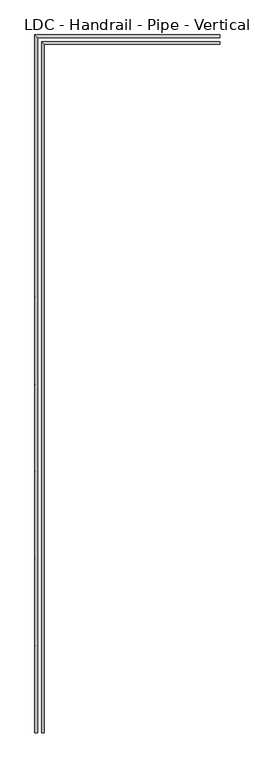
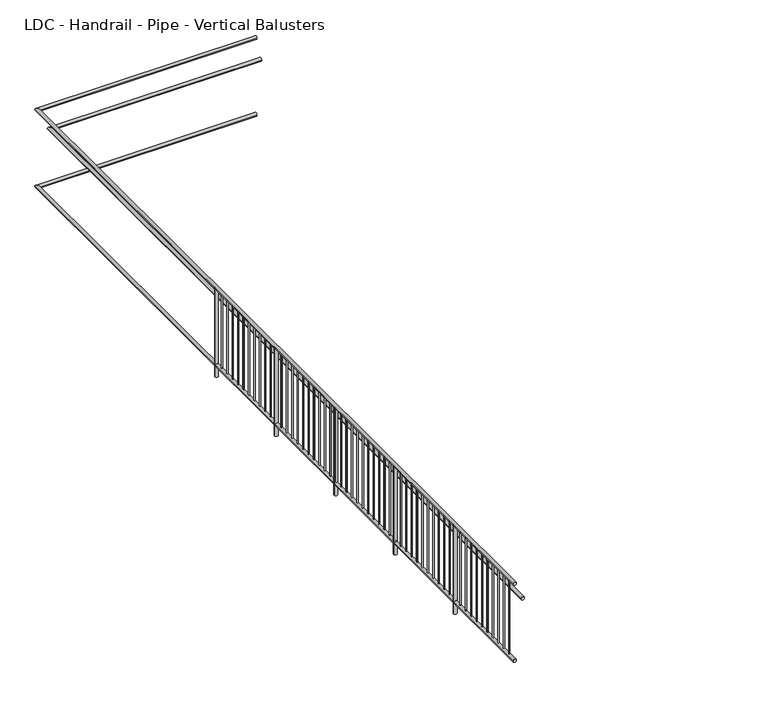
"""IFC4 building model written with IfcOpenShell, lengths in millimetres: railing geometry, LDC - Handrail - Pipe - Vertical Balusters."""

from ifc_helpers import new_model, si_unit, point, frame, frame_2d, origin, place, context, project, spatial, circle_curve, ellipse_curve, trimmed, segment, composite_curve, outline, extrude, source, transform, mapped, element, save
from ifc_brep_helpers import plane_surface, cylinder_surface, advanced_brep


def ldc_handrail_pipe_vertical_balusters_79d0837e(model_context):
    return source(origin(), model_context, "Body", "SolidModel", [
        advanced_brep(
        [(-2934.7516552, 9586.277236, 4107.75), (-2934.7516552, 9624.377236, 4107.75), (-5360.4516552, 9586.277236, 4107.75), (-5398.5516552, 9624.377236, 4107.75), (-5360.4516552, 353.377236, 4107.75), (-5398.5516552, 353.377236, 4107.75)],
        [
            (0, 1, circle_curve(frame((-2934.7516552, 9605.327236, 4107.75), z_axis=(1.0, 0.0, 0.0), x_axis=(0.0, 1.0, 0.0)), 19.05)),
            (1, 0, circle_curve(frame((-2934.7516552, 9605.327236, 4107.75), z_axis=(1.0, 0.0, 0.0), x_axis=(0.0, 1.0, 0.0)), 19.05)),
            (0, 2),
            (2, 3, ellipse_curve(frame((-5379.5016552, 9605.327236, 4107.75), z_axis=(0.7071067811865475, 0.7071067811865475, 0.0), x_axis=(0.7071067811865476, -0.7071067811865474, 0.0)), 26.9407684, 19.05)),
            (3, 1),
            (3, 2, ellipse_curve(frame((-5379.5016552, 9605.327236, 4107.75), z_axis=(0.7071067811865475, 0.7071067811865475, 0.0), x_axis=(0.7071067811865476, -0.7071067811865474, 0.0)), 26.9407684, 19.05)),
            (4, 5, circle_curve(frame((-5379.5016552, 353.377236, 4107.75), z_axis=(0.0, -1.0, 0.0), x_axis=(-1.0, 0.0, 0.0)), 19.05)),
            (5, 4, circle_curve(frame((-5379.5016552, 353.377236, 4107.75), z_axis=(0.0, -1.0, 0.0), x_axis=(-1.0, 0.0, 0.0)), 19.05)),
            (2, 4),
            (5, 3),
        ],
        [
            plane_surface(frame((-2934.7516552, 9605.327236, 4126.8), z_axis=(1.0, 0.0, 0.0), x_axis=(0.0, -1.0, 0.0))),
            cylinder_surface(frame((-2934.7516552, 9605.327236, 4107.75), z_axis=(1.0, 0.0, 0.0), x_axis=(0.0, 1.0, 0.0)), 19.05),
            plane_surface(frame((-5379.5016552, 353.377236, 4126.8), z_axis=(0.0, -1.0, 0.0), x_axis=(0.0, 0.0, -1.0))),
            cylinder_surface(frame((-5379.5016552, 9605.327236, 4107.75), z_axis=(0.0, 1.0, 0.0), x_axis=(-1.0, 0.0, 0.0)), 19.05),
        ],
        [
            (0, [[1, 2]]),
            (1, [[-1, 3, 4, 5]]),
            (1, [[-2, -5, 6, -3]]),
            (2, [[7, 8]]),
            (3, [[-4, 9, -8, 10]]),
            (3, [[-6, -10, -7, -9]]),
        ],
    ),
        advanced_brep(
        [(-2934.7516552, 9586.277236, 3198.1125), (-2934.7516552, 9624.377236, 3198.1125), (-5360.4516552, 9586.277236, 3198.1125), (-5398.5516552, 9624.377236, 3198.1125), (-5360.4516552, 353.377236, 3198.1125), (-5398.5516552, 353.377236, 3198.1125)],
        [
            (0, 1, circle_curve(frame((-2934.7516552, 9605.327236, 3198.1125), z_axis=(1.0, 0.0, 0.0), x_axis=(0.0, 1.0, 0.0)), 19.05)),
            (1, 0, circle_curve(frame((-2934.7516552, 9605.327236, 3198.1125), z_axis=(1.0, 0.0, 0.0), x_axis=(0.0, 1.0, 0.0)), 19.05)),
            (0, 2),
            (2, 3, ellipse_curve(frame((-5379.5016552, 9605.327236, 3198.1125), z_axis=(0.7071067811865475, 0.7071067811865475, 0.0), x_axis=(0.7071067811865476, -0.7071067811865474, 0.0)), 26.9407684, 19.05)),
            (3, 1),
            (3, 2, ellipse_curve(frame((-5379.5016552, 9605.327236, 3198.1125), z_axis=(0.7071067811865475, 0.7071067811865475, 0.0), x_axis=(0.7071067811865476, -0.7071067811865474, 0.0)), 26.9407684, 19.05)),
            (4, 5, circle_curve(frame((-5379.5016552, 353.377236, 3198.1125), z_axis=(0.0, -1.0, 0.0), x_axis=(-1.0, 0.0, 0.0)), 19.05)),
            (5, 4, circle_curve(frame((-5379.5016552, 353.377236, 3198.1125), z_axis=(0.0, -1.0, 0.0), x_axis=(-1.0, 0.0, 0.0)), 19.05)),
            (2, 4),
            (5, 3),
        ],
        [
            plane_surface(frame((-2934.7516552, 9605.327236, 3217.1625), z_axis=(1.0, 0.0, 0.0), x_axis=(0.0, -1.0, 0.0))),
            cylinder_surface(frame((-2934.7516552, 9605.327236, 3198.1125), z_axis=(1.0, 0.0, 0.0), x_axis=(0.0, 1.0, 0.0)), 19.05),
            plane_surface(frame((-5379.5016552, 353.377236, 3217.1625), z_axis=(0.0, -1.0, 0.0), x_axis=(0.0, 0.0, -1.0))),
            cylinder_surface(frame((-5379.5016552, 9605.327236, 3198.1125), z_axis=(0.0, 1.0, 0.0), x_axis=(-1.0, 0.0, 0.0)), 19.05),
        ],
        [
            (0, [[1, 2]]),
            (1, [[-1, 3, 4, 5]]),
            (1, [[-2, -5, 6, -3]]),
            (2, [[7, 8]]),
            (3, [[-4, 9, -8, 10]]),
            (3, [[-6, -10, -7, -9]]),
        ],
    ),
        advanced_brep(
        [(-2934.7516552, 9497.377236, 3904.55), (-2934.7516552, 9535.477236, 3904.55), (-5271.5516552, 9497.377236, 3904.55), (-5309.6516552, 9535.477236, 3904.55), (-5271.5516552, 353.377236, 3904.55), (-5309.6516552, 353.377236, 3904.55)],
        [
            (0, 1, circle_curve(frame((-2934.7516552, 9516.427236, 3904.55), z_axis=(1.0, 0.0, 0.0), x_axis=(0.0, 1.0, 0.0)), 19.05)),
            (1, 0, circle_curve(frame((-2934.7516552, 9516.427236, 3904.55), z_axis=(1.0, 0.0, 0.0), x_axis=(0.0, 1.0, 0.0)), 19.05)),
            (0, 2),
            (2, 3, ellipse_curve(frame((-5290.6016552, 9516.427236, 3904.55), z_axis=(0.7071067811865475, 0.7071067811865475, 0.0), x_axis=(0.7071067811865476, -0.7071067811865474, 0.0)), 26.9407684, 19.05)),
            (3, 1),
            (3, 2, ellipse_curve(frame((-5290.6016552, 9516.427236, 3904.55), z_axis=(0.7071067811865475, 0.7071067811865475, 0.0), x_axis=(0.7071067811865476, -0.7071067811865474, 0.0)), 26.9407684, 19.05)),
            (4, 5, circle_curve(frame((-5290.6016552, 353.377236, 3904.55), z_axis=(0.0, -1.0, 0.0), x_axis=(-1.0, 0.0, 0.0)), 19.05)),
            (5, 4, circle_curve(frame((-5290.6016552, 353.377236, 3904.55), z_axis=(0.0, -1.0, 0.0), x_axis=(-1.0, 0.0, 0.0)), 19.05)),
            (2, 4),
            (5, 3),
        ],
        [
            plane_surface(frame((-2934.7516552, 9516.427236, 3923.6), z_axis=(1.0, 0.0, 0.0), x_axis=(0.0, -1.0, 0.0))),
            cylinder_surface(frame((-2934.7516552, 9516.427236, 3904.55), z_axis=(1.0, 0.0, 0.0), x_axis=(0.0, 1.0, 0.0)), 19.05),
            plane_surface(frame((-5290.6016552, 353.377236, 3923.6), z_axis=(0.0, -1.0, 0.0), x_axis=(0.0, 0.0, -1.0))),
            cylinder_surface(frame((-5290.6016552, 9516.427236, 3904.55), z_axis=(0.0, 1.0, 0.0), x_axis=(-1.0, 0.0, 0.0)), 19.05),
        ],
        [
            (0, [[1, 2]]),
            (1, [[-1, 3, 4, 5]]),
            (1, [[-2, -5, 6, -3]]),
            (2, [[7, 8]]),
            (3, [[-4, 9, -8, 10]]),
            (3, [[-6, -10, -7, -9]]),
        ],
    ),
        extrude(outline(composite_curve([segment(trimmed(circle_curve(frame_2d((-5379.5016552, 458.5130315)), 6.35), [point((-5373.1516552, 458.5130315))], [point((-5385.8516552, 458.5130315))], False, "CARTESIAN"), True, "CONTINUOUS"), segment(trimmed(circle_curve(frame_2d((-5379.5016552, 458.5130315)), 6.35), [point((-5385.8516552, 458.5130315))], [point((-5373.1516552, 458.5130315))], False, "CARTESIAN"), True, "CONTINUOUS")], self_intersect=False)), frame((0.0, 0.0, 3217.1625), z_axis=(0.0, 0.0, 1.0), x_axis=(1.0, 0.0, 0.0)), (0.0, 0.0, 1.0), 871.5375),
        extrude(outline(composite_curve([segment(trimmed(circle_curve(frame_2d((-5379.5016552, 563.6488269)), 6.35), [point((-5373.1516552, 563.6488269))], [point((-5385.8516552, 563.6488269))], False, "CARTESIAN"), True, "CONTINUOUS"), segment(trimmed(circle_curve(frame_2d((-5379.5016552, 563.6488269)), 6.35), [point((-5385.8516552, 563.6488269))], [point((-5373.1516552, 563.6488269))], False, "CARTESIAN"), True, "CONTINUOUS")], self_intersect=False)), frame((0.0, 0.0, 3217.1625), z_axis=(0.0, 0.0, 1.0), x_axis=(1.0, 0.0, 0.0)), (0.0, 0.0, 1.0), 871.5375),
        extrude(outline(composite_curve([segment(trimmed(circle_curve(frame_2d((-5379.5016552, 668.7846224)), 6.35), [point((-5373.1516552, 668.7846224))], [point((-5385.8516552, 668.7846224))], False, "CARTESIAN"), True, "CONTINUOUS"), segment(trimmed(circle_curve(frame_2d((-5379.5016552, 668.7846224)), 6.35), [point((-5385.8516552, 668.7846224))], [point((-5373.1516552, 668.7846224))], False, "CARTESIAN"), True, "CONTINUOUS")], self_intersect=False)), frame((0.0, 0.0, 3217.1625), z_axis=(0.0, 0.0, 1.0), x_axis=(1.0, 0.0, 0.0)), (0.0, 0.0, 1.0), 871.5375),
        extrude(outline(composite_curve([segment(trimmed(circle_curve(frame_2d((-5379.5016552, 773.9204178)), 6.35), [point((-5373.1516552, 773.9204178))], [point((-5385.8516552, 773.9204178))], False, "CARTESIAN"), True, "CONTINUOUS"), segment(trimmed(circle_curve(frame_2d((-5379.5016552, 773.9204178)), 6.35), [point((-5385.8516552, 773.9204178))], [point((-5373.1516552, 773.9204178))], False, "CARTESIAN"), True, "CONTINUOUS")], self_intersect=False)), frame((0.0, 0.0, 3217.1625), z_axis=(0.0, 0.0, 1.0), x_axis=(1.0, 0.0, 0.0)), (0.0, 0.0, 1.0), 871.5375),
        extrude(outline(composite_curve([segment(trimmed(circle_curve(frame_2d((-5379.5016552, 879.0562133)), 6.35), [point((-5373.1516552, 879.0562133))], [point((-5385.8516552, 879.0562133))], False, "CARTESIAN"), True, "CONTINUOUS"), segment(trimmed(circle_curve(frame_2d((-5379.5016552, 879.0562133)), 6.35), [point((-5385.8516552, 879.0562133))], [point((-5373.1516552, 879.0562133))], False, "CARTESIAN"), True, "CONTINUOUS")], self_intersect=False)), frame((0.0, 0.0, 3217.1625), z_axis=(0.0, 0.0, 1.0), x_axis=(1.0, 0.0, 0.0)), (0.0, 0.0, 1.0), 871.5375),
        extrude(outline(composite_curve([segment(trimmed(circle_curve(frame_2d((-5379.5016552, 984.1920087)), 6.35), [point((-5373.1516552, 984.1920087))], [point((-5385.8516552, 984.1920087))], False, "CARTESIAN"), True, "CONTINUOUS"), segment(trimmed(circle_curve(frame_2d((-5379.5016552, 984.1920087)), 6.35), [point((-5385.8516552, 984.1920087))], [point((-5373.1516552, 984.1920087))], False, "CARTESIAN"), True, "CONTINUOUS")], self_intersect=False)), frame((0.0, 0.0, 3217.1625), z_axis=(0.0, 0.0, 1.0), x_axis=(1.0, 0.0, 0.0)), (0.0, 0.0, 1.0), 871.5375),
        extrude(outline(composite_curve([segment(trimmed(circle_curve(frame_2d((-5379.5016552, 1089.3278042)), 6.35), [point((-5373.1516552, 1089.3278042))], [point((-5385.8516552, 1089.3278042))], False, "CARTESIAN"), True, "CONTINUOUS"), segment(trimmed(circle_curve(frame_2d((-5379.5016552, 1089.3278042)), 6.35), [point((-5385.8516552, 1089.3278042))], [point((-5373.1516552, 1089.3278042))], False, "CARTESIAN"), True, "CONTINUOUS")], self_intersect=False)), frame((0.0, 0.0, 3217.1625), z_axis=(0.0, 0.0, 1.0), x_axis=(1.0, 0.0, 0.0)), (0.0, 0.0, 1.0), 871.5375),
        extrude(outline(composite_curve([segment(trimmed(circle_curve(frame_2d((-5379.5016552, 1194.4635997)), 6.35), [point((-5373.1516552, 1194.4635997))], [point((-5385.8516552, 1194.4635997))], False, "CARTESIAN"), True, "CONTINUOUS"), segment(trimmed(circle_curve(frame_2d((-5379.5016552, 1194.4635997)), 6.35), [point((-5385.8516552, 1194.4635997))], [point((-5373.1516552, 1194.4635997))], False, "CARTESIAN"), True, "CONTINUOUS")], self_intersect=False)), frame((0.0, 0.0, 3217.1625), z_axis=(0.0, 0.0, 1.0), x_axis=(1.0, 0.0, 0.0)), (0.0, 0.0, 1.0), 871.5375),
        extrude(outline(composite_curve([segment(trimmed(circle_curve(frame_2d((-5379.5016552, 1299.5993951)), 6.35), [point((-5373.1516552, 1299.5993951))], [point((-5385.8516552, 1299.5993951))], False, "CARTESIAN"), True, "CONTINUOUS"), segment(trimmed(circle_curve(frame_2d((-5379.5016552, 1299.5993951)), 6.35), [point((-5385.8516552, 1299.5993951))], [point((-5373.1516552, 1299.5993951))], False, "CARTESIAN"), True, "CONTINUOUS")], self_intersect=False)), frame((0.0, 0.0, 3217.1625), z_axis=(0.0, 0.0, 1.0), x_axis=(1.0, 0.0, 0.0)), (0.0, 0.0, 1.0), 871.5375),
        extrude(outline(composite_curve([segment(trimmed(circle_curve(frame_2d((-5379.5016552, 1404.7351906)), 6.35), [point((-5373.1516552, 1404.7351906))], [point((-5385.8516552, 1404.7351906))], False, "CARTESIAN"), True, "CONTINUOUS"), segment(trimmed(circle_curve(frame_2d((-5379.5016552, 1404.7351906)), 6.35), [point((-5385.8516552, 1404.7351906))], [point((-5373.1516552, 1404.7351906))], False, "CARTESIAN"), True, "CONTINUOUS")], self_intersect=False)), frame((0.0, 0.0, 3217.1625), z_axis=(0.0, 0.0, 1.0), x_axis=(1.0, 0.0, 0.0)), (0.0, 0.0, 1.0), 871.5375),
        extrude(outline(composite_curve([segment(trimmed(circle_curve(frame_2d((-5379.5016552, 1509.870986)), 19.05), [point((-5360.4516552, 1509.870986))], [point((-5398.5516552, 1509.870986))], False, "CARTESIAN"), True, "CONTINUOUS"), segment(trimmed(circle_curve(frame_2d((-5379.5016552, 1509.870986)), 19.05), [point((-5398.5516552, 1509.870986))], [point((-5360.4516552, 1509.870986))], False, "CARTESIAN"), True, "CONTINUOUS")], self_intersect=False)), frame((0.0, 0.0, 3060.0), z_axis=(0.0, 0.0, 1.0), x_axis=(1.0, 0.0, 0.0)), (0.0, 0.0, 1.0), 1047.75),
        extrude(outline(composite_curve([segment(trimmed(circle_curve(frame_2d((-5379.5016552, 1509.870986)), 6.35), [point((-5373.1516552, 1509.870986))], [point((-5385.8516552, 1509.870986))], False, "CARTESIAN"), True, "CONTINUOUS"), segment(trimmed(circle_curve(frame_2d((-5379.5016552, 1509.870986)), 6.35), [point((-5385.8516552, 1509.870986))], [point((-5373.1516552, 1509.870986))], False, "CARTESIAN"), True, "CONTINUOUS")], self_intersect=False)), frame((0.0, 0.0, 3217.1625), z_axis=(0.0, 0.0, 1.0), x_axis=(1.0, 0.0, 0.0)), (0.0, 0.0, 1.0), 871.5375),
        extrude(outline(composite_curve([segment(trimmed(circle_curve(frame_2d((-5379.5016552, 1615.0067815)), 6.35), [point((-5373.1516552, 1615.0067815))], [point((-5385.8516552, 1615.0067815))], False, "CARTESIAN"), True, "CONTINUOUS"), segment(trimmed(circle_curve(frame_2d((-5379.5016552, 1615.0067815)), 6.35), [point((-5385.8516552, 1615.0067815))], [point((-5373.1516552, 1615.0067815))], False, "CARTESIAN"), True, "CONTINUOUS")], self_intersect=False)), frame((0.0, 0.0, 3217.1625), z_axis=(0.0, 0.0, 1.0), x_axis=(1.0, 0.0, 0.0)), (0.0, 0.0, 1.0), 871.5375),
        extrude(outline(composite_curve([segment(trimmed(circle_curve(frame_2d((-5379.5016552, 1720.1425769)), 6.35), [point((-5373.1516552, 1720.1425769))], [point((-5385.8516552, 1720.1425769))], False, "CARTESIAN"), True, "CONTINUOUS"), segment(trimmed(circle_curve(frame_2d((-5379.5016552, 1720.1425769)), 6.35), [point((-5385.8516552, 1720.1425769))], [point((-5373.1516552, 1720.1425769))], False, "CARTESIAN"), True, "CONTINUOUS")], self_intersect=False)), frame((0.0, 0.0, 3217.1625), z_axis=(0.0, 0.0, 1.0), x_axis=(1.0, 0.0, 0.0)), (0.0, 0.0, 1.0), 871.5375),
        extrude(outline(composite_curve([segment(trimmed(circle_curve(frame_2d((-5379.5016552, 1825.2783724)), 6.35), [point((-5373.1516552, 1825.2783724))], [point((-5385.8516552, 1825.2783724))], False, "CARTESIAN"), True, "CONTINUOUS"), segment(trimmed(circle_curve(frame_2d((-5379.5016552, 1825.2783724)), 6.35), [point((-5385.8516552, 1825.2783724))], [point((-5373.1516552, 1825.2783724))], False, "CARTESIAN"), True, "CONTINUOUS")], self_intersect=False)), frame((0.0, 0.0, 3217.1625), z_axis=(0.0, 0.0, 1.0), x_axis=(1.0, 0.0, 0.0)), (0.0, 0.0, 1.0), 871.5375),
        extrude(outline(composite_curve([segment(trimmed(circle_curve(frame_2d((-5379.5016552, 1930.4141678)), 6.35), [point((-5373.1516552, 1930.4141678))], [point((-5385.8516552, 1930.4141678))], False, "CARTESIAN"), True, "CONTINUOUS"), segment(trimmed(circle_curve(frame_2d((-5379.5016552, 1930.4141678)), 6.35), [point((-5385.8516552, 1930.4141678))], [point((-5373.1516552, 1930.4141678))], False, "CARTESIAN"), True, "CONTINUOUS")], self_intersect=False)), frame((0.0, 0.0, 3217.1625), z_axis=(0.0, 0.0, 1.0), x_axis=(1.0, 0.0, 0.0)), (0.0, 0.0, 1.0), 871.5375),
        extrude(outline(composite_curve([segment(trimmed(circle_curve(frame_2d((-5379.5016552, 2035.5499633)), 6.35), [point((-5373.1516552, 2035.5499633))], [point((-5385.8516552, 2035.5499633))], False, "CARTESIAN"), True, "CONTINUOUS"), segment(trimmed(circle_curve(frame_2d((-5379.5016552, 2035.5499633)), 6.35), [point((-5385.8516552, 2035.5499633))], [point((-5373.1516552, 2035.5499633))], False, "CARTESIAN"), True, "CONTINUOUS")], self_intersect=False)), frame((0.0, 0.0, 3217.1625), z_axis=(0.0, 0.0, 1.0), x_axis=(1.0, 0.0, 0.0)), (0.0, 0.0, 1.0), 871.5375),
        extrude(outline(composite_curve([segment(trimmed(circle_curve(frame_2d((-5379.5016552, 2140.6857587)), 6.35), [point((-5373.1516552, 2140.6857587))], [point((-5385.8516552, 2140.6857587))], False, "CARTESIAN"), True, "CONTINUOUS"), segment(trimmed(circle_curve(frame_2d((-5379.5016552, 2140.6857587)), 6.35), [point((-5385.8516552, 2140.6857587))], [point((-5373.1516552, 2140.6857587))], False, "CARTESIAN"), True, "CONTINUOUS")], self_intersect=False)), frame((0.0, 0.0, 3217.1625), z_axis=(0.0, 0.0, 1.0), x_axis=(1.0, 0.0, 0.0)), (0.0, 0.0, 1.0), 871.5375),
        extrude(outline(composite_curve([segment(trimmed(circle_curve(frame_2d((-5379.5016552, 2245.8215542)), 6.35), [point((-5373.1516552, 2245.8215542))], [point((-5385.8516552, 2245.8215542))], False, "CARTESIAN"), True, "CONTINUOUS"), segment(trimmed(circle_curve(frame_2d((-5379.5016552, 2245.8215542)), 6.35), [point((-5385.8516552, 2245.8215542))], [point((-5373.1516552, 2245.8215542))], False, "CARTESIAN"), True, "CONTINUOUS")], self_intersect=False)), frame((0.0, 0.0, 3217.1625), z_axis=(0.0, 0.0, 1.0), x_axis=(1.0, 0.0, 0.0)), (0.0, 0.0, 1.0), 871.5375),
        extrude(outline(composite_curve([segment(trimmed(circle_curve(frame_2d((-5379.5016552, 2350.9573497)), 6.35), [point((-5373.1516552, 2350.9573497))], [point((-5385.8516552, 2350.9573497))], False, "CARTESIAN"), True, "CONTINUOUS"), segment(trimmed(circle_curve(frame_2d((-5379.5016552, 2350.9573497)), 6.35), [point((-5385.8516552, 2350.9573497))], [point((-5373.1516552, 2350.9573497))], False, "CARTESIAN"), True, "CONTINUOUS")], self_intersect=False)), frame((0.0, 0.0, 3217.1625), z_axis=(0.0, 0.0, 1.0), x_axis=(1.0, 0.0, 0.0)), (0.0, 0.0, 1.0), 871.5375),
        extrude(outline(composite_curve([segment(trimmed(circle_curve(frame_2d((-5379.5016552, 2456.0931451)), 6.35), [point((-5373.1516552, 2456.0931451))], [point((-5385.8516552, 2456.0931451))], False, "CARTESIAN"), True, "CONTINUOUS"), segment(trimmed(circle_curve(frame_2d((-5379.5016552, 2456.0931451)), 6.35), [point((-5385.8516552, 2456.0931451))], [point((-5373.1516552, 2456.0931451))], False, "CARTESIAN"), True, "CONTINUOUS")], self_intersect=False)), frame((0.0, 0.0, 3217.1625), z_axis=(0.0, 0.0, 1.0), x_axis=(1.0, 0.0, 0.0)), (0.0, 0.0, 1.0), 871.5375),
        extrude(outline(composite_curve([segment(trimmed(circle_curve(frame_2d((-5379.5016552, 2561.2289406)), 6.35), [point((-5373.1516552, 2561.2289406))], [point((-5385.8516552, 2561.2289406))], False, "CARTESIAN"), True, "CONTINUOUS"), segment(trimmed(circle_curve(frame_2d((-5379.5016552, 2561.2289406)), 6.35), [point((-5385.8516552, 2561.2289406))], [point((-5373.1516552, 2561.2289406))], False, "CARTESIAN"), True, "CONTINUOUS")], self_intersect=False)), frame((0.0, 0.0, 3217.1625), z_axis=(0.0, 0.0, 1.0), x_axis=(1.0, 0.0, 0.0)), (0.0, 0.0, 1.0), 871.5375),
        extrude(outline(composite_curve([segment(trimmed(circle_curve(frame_2d((-5379.5016552, 2666.364736)), 19.05), [point((-5360.4516552, 2666.364736))], [point((-5398.5516552, 2666.364736))], False, "CARTESIAN"), True, "CONTINUOUS"), segment(trimmed(circle_curve(frame_2d((-5379.5016552, 2666.364736)), 19.05), [point((-5398.5516552, 2666.364736))], [point((-5360.4516552, 2666.364736))], False, "CARTESIAN"), True, "CONTINUOUS")], self_intersect=False)), frame((0.0, 0.0, 3060.0), z_axis=(0.0, 0.0, 1.0), x_axis=(1.0, 0.0, 0.0)), (0.0, 0.0, 1.0), 1047.75),
        extrude(outline(composite_curve([segment(trimmed(circle_curve(frame_2d((-5379.5016552, 2666.364736)), 6.35), [point((-5373.1516552, 2666.364736))], [point((-5385.8516552, 2666.364736))], False, "CARTESIAN"), True, "CONTINUOUS"), segment(trimmed(circle_curve(frame_2d((-5379.5016552, 2666.364736)), 6.35), [point((-5385.8516552, 2666.364736))], [point((-5373.1516552, 2666.364736))], False, "CARTESIAN"), True, "CONTINUOUS")], self_intersect=False)), frame((0.0, 0.0, 3217.1625), z_axis=(0.0, 0.0, 1.0), x_axis=(1.0, 0.0, 0.0)), (0.0, 0.0, 1.0), 871.5375),
        extrude(outline(composite_curve([segment(trimmed(circle_curve(frame_2d((-5379.5016552, 2771.5005315)), 6.35), [point((-5373.1516552, 2771.5005315))], [point((-5385.8516552, 2771.5005315))], False, "CARTESIAN"), True, "CONTINUOUS"), segment(trimmed(circle_curve(frame_2d((-5379.5016552, 2771.5005315)), 6.35), [point((-5385.8516552, 2771.5005315))], [point((-5373.1516552, 2771.5005315))], False, "CARTESIAN"), True, "CONTINUOUS")], self_intersect=False)), frame((0.0, 0.0, 3217.1625), z_axis=(0.0, 0.0, 1.0), x_axis=(1.0, 0.0, 0.0)), (0.0, 0.0, 1.0), 871.5375),
        extrude(outline(composite_curve([segment(trimmed(circle_curve(frame_2d((-5379.5016552, 2876.6363269)), 6.35), [point((-5373.1516552, 2876.6363269))], [point((-5385.8516552, 2876.6363269))], False, "CARTESIAN"), True, "CONTINUOUS"), segment(trimmed(circle_curve(frame_2d((-5379.5016552, 2876.6363269)), 6.35), [point((-5385.8516552, 2876.6363269))], [point((-5373.1516552, 2876.6363269))], False, "CARTESIAN"), True, "CONTINUOUS")], self_intersect=False)), frame((0.0, 0.0, 3217.1625), z_axis=(0.0, 0.0, 1.0), x_axis=(1.0, 0.0, 0.0)), (0.0, 0.0, 1.0), 871.5375),
        extrude(outline(composite_curve([segment(trimmed(circle_curve(frame_2d((-5379.5016552, 2981.7721224)), 6.35), [point((-5373.1516552, 2981.7721224))], [point((-5385.8516552, 2981.7721224))], False, "CARTESIAN"), True, "CONTINUOUS"), segment(trimmed(circle_curve(frame_2d((-5379.5016552, 2981.7721224)), 6.35), [point((-5385.8516552, 2981.7721224))], [point((-5373.1516552, 2981.7721224))], False, "CARTESIAN"), True, "CONTINUOUS")], self_intersect=False)), frame((0.0, 0.0, 3217.1625), z_axis=(0.0, 0.0, 1.0), x_axis=(1.0, 0.0, 0.0)), (0.0, 0.0, 1.0), 871.5375),
        extrude(outline(composite_curve([segment(trimmed(circle_curve(frame_2d((-5379.5016552, 3086.9079178)), 6.35), [point((-5373.1516552, 3086.9079178))], [point((-5385.8516552, 3086.9079178))], False, "CARTESIAN"), True, "CONTINUOUS"), segment(trimmed(circle_curve(frame_2d((-5379.5016552, 3086.9079178)), 6.35), [point((-5385.8516552, 3086.9079178))], [point((-5373.1516552, 3086.9079178))], False, "CARTESIAN"), True, "CONTINUOUS")], self_intersect=False)), frame((0.0, 0.0, 3217.1625), z_axis=(0.0, 0.0, 1.0), x_axis=(1.0, 0.0, 0.0)), (0.0, 0.0, 1.0), 871.5375),
        extrude(outline(composite_curve([segment(trimmed(circle_curve(frame_2d((-5379.5016552, 3192.0437133)), 6.35), [point((-5373.1516552, 3192.0437133))], [point((-5385.8516552, 3192.0437133))], False, "CARTESIAN"), True, "CONTINUOUS"), segment(trimmed(circle_curve(frame_2d((-5379.5016552, 3192.0437133)), 6.35), [point((-5385.8516552, 3192.0437133))], [point((-5373.1516552, 3192.0437133))], False, "CARTESIAN"), True, "CONTINUOUS")], self_intersect=False)), frame((0.0, 0.0, 3217.1625), z_axis=(0.0, 0.0, 1.0), x_axis=(1.0, 0.0, 0.0)), (0.0, 0.0, 1.0), 871.5375),
        extrude(outline(composite_curve([segment(trimmed(circle_curve(frame_2d((-5379.5016552, 3297.1795087)), 6.35), [point((-5373.1516552, 3297.1795087))], [point((-5385.8516552, 3297.1795087))], False, "CARTESIAN"), True, "CONTINUOUS"), segment(trimmed(circle_curve(frame_2d((-5379.5016552, 3297.1795087)), 6.35), [point((-5385.8516552, 3297.1795087))], [point((-5373.1516552, 3297.1795087))], False, "CARTESIAN"), True, "CONTINUOUS")], self_intersect=False)), frame((0.0, 0.0, 3217.1625), z_axis=(0.0, 0.0, 1.0), x_axis=(1.0, 0.0, 0.0)), (0.0, 0.0, 1.0), 871.5375),
        extrude(outline(composite_curve([segment(trimmed(circle_curve(frame_2d((-5379.5016552, 3402.3153042)), 6.35), [point((-5373.1516552, 3402.3153042))], [point((-5385.8516552, 3402.3153042))], False, "CARTESIAN"), True, "CONTINUOUS"), segment(trimmed(circle_curve(frame_2d((-5379.5016552, 3402.3153042)), 6.35), [point((-5385.8516552, 3402.3153042))], [point((-5373.1516552, 3402.3153042))], False, "CARTESIAN"), True, "CONTINUOUS")], self_intersect=False)), frame((0.0, 0.0, 3217.1625), z_axis=(0.0, 0.0, 1.0), x_axis=(1.0, 0.0, 0.0)), (0.0, 0.0, 1.0), 871.5375),
        extrude(outline(composite_curve([segment(trimmed(circle_curve(frame_2d((-5379.5016552, 3507.4510997)), 6.35), [point((-5373.1516552, 3507.4510997))], [point((-5385.8516552, 3507.4510997))], False, "CARTESIAN"), True, "CONTINUOUS"), segment(trimmed(circle_curve(frame_2d((-5379.5016552, 3507.4510997)), 6.35), [point((-5385.8516552, 3507.4510997))], [point((-5373.1516552, 3507.4510997))], False, "CARTESIAN"), True, "CONTINUOUS")], self_intersect=False)), frame((0.0, 0.0, 3217.1625), z_axis=(0.0, 0.0, 1.0), x_axis=(1.0, 0.0, 0.0)), (0.0, 0.0, 1.0), 871.5375),
        extrude(outline(composite_curve([segment(trimmed(circle_curve(frame_2d((-5379.5016552, 3612.5868951)), 6.35), [point((-5373.1516552, 3612.5868951))], [point((-5385.8516552, 3612.5868951))], False, "CARTESIAN"), True, "CONTINUOUS"), segment(trimmed(circle_curve(frame_2d((-5379.5016552, 3612.5868951)), 6.35), [point((-5385.8516552, 3612.5868951))], [point((-5373.1516552, 3612.5868951))], False, "CARTESIAN"), True, "CONTINUOUS")], self_intersect=False)), frame((0.0, 0.0, 3217.1625), z_axis=(0.0, 0.0, 1.0), x_axis=(1.0, 0.0, 0.0)), (0.0, 0.0, 1.0), 871.5375),
        extrude(outline(composite_curve([segment(trimmed(circle_curve(frame_2d((-5379.5016552, 3717.7226906)), 6.35), [point((-5373.1516552, 3717.7226906))], [point((-5385.8516552, 3717.7226906))], False, "CARTESIAN"), True, "CONTINUOUS"), segment(trimmed(circle_curve(frame_2d((-5379.5016552, 3717.7226906)), 6.35), [point((-5385.8516552, 3717.7226906))], [point((-5373.1516552, 3717.7226906))], False, "CARTESIAN"), True, "CONTINUOUS")], self_intersect=False)), frame((0.0, 0.0, 3217.1625), z_axis=(0.0, 0.0, 1.0), x_axis=(1.0, 0.0, 0.0)), (0.0, 0.0, 1.0), 871.5375),
        extrude(outline(composite_curve([segment(trimmed(circle_curve(frame_2d((-5379.5016552, 3822.858486)), 19.05), [point((-5360.4516552, 3822.858486))], [point((-5398.5516552, 3822.858486))], False, "CARTESIAN"), True, "CONTINUOUS"), segment(trimmed(circle_curve(frame_2d((-5379.5016552, 3822.858486)), 19.05), [point((-5398.5516552, 3822.858486))], [point((-5360.4516552, 3822.858486))], False, "CARTESIAN"), True, "CONTINUOUS")], self_intersect=False)), frame((0.0, 0.0, 3060.0), z_axis=(0.0, 0.0, 1.0), x_axis=(1.0, 0.0, 0.0)), (0.0, 0.0, 1.0), 1047.75),
        extrude(outline(composite_curve([segment(trimmed(circle_curve(frame_2d((-5379.5016552, 3822.858486)), 6.35), [point((-5373.1516552, 3822.858486))], [point((-5385.8516552, 3822.858486))], False, "CARTESIAN"), True, "CONTINUOUS"), segment(trimmed(circle_curve(frame_2d((-5379.5016552, 3822.858486)), 6.35), [point((-5385.8516552, 3822.858486))], [point((-5373.1516552, 3822.858486))], False, "CARTESIAN"), True, "CONTINUOUS")], self_intersect=False)), frame((0.0, 0.0, 3217.1625), z_axis=(0.0, 0.0, 1.0), x_axis=(1.0, 0.0, 0.0)), (0.0, 0.0, 1.0), 871.5375),
        extrude(outline(composite_curve([segment(trimmed(circle_curve(frame_2d((-5379.5016552, 3927.9942815)), 6.35), [point((-5373.1516552, 3927.9942815))], [point((-5385.8516552, 3927.9942815))], False, "CARTESIAN"), True, "CONTINUOUS"), segment(trimmed(circle_curve(frame_2d((-5379.5016552, 3927.9942815)), 6.35), [point((-5385.8516552, 3927.9942815))], [point((-5373.1516552, 3927.9942815))], False, "CARTESIAN"), True, "CONTINUOUS")], self_intersect=False)), frame((0.0, 0.0, 3217.1625), z_axis=(0.0, 0.0, 1.0), x_axis=(1.0, 0.0, 0.0)), (0.0, 0.0, 1.0), 871.5375),
        extrude(outline(composite_curve([segment(trimmed(circle_curve(frame_2d((-5379.5016552, 4033.1300769)), 6.35), [point((-5373.1516552, 4033.1300769))], [point((-5385.8516552, 4033.1300769))], False, "CARTESIAN"), True, "CONTINUOUS"), segment(trimmed(circle_curve(frame_2d((-5379.5016552, 4033.1300769)), 6.35), [point((-5385.8516552, 4033.1300769))], [point((-5373.1516552, 4033.1300769))], False, "CARTESIAN"), True, "CONTINUOUS")], self_intersect=False)), frame((0.0, 0.0, 3217.1625), z_axis=(0.0, 0.0, 1.0), x_axis=(1.0, 0.0, 0.0)), (0.0, 0.0, 1.0), 871.5375),
        extrude(outline(composite_curve([segment(trimmed(circle_curve(frame_2d((-5379.5016552, 4138.2658724)), 6.35), [point((-5373.1516552, 4138.2658724))], [point((-5385.8516552, 4138.2658724))], False, "CARTESIAN"), True, "CONTINUOUS"), segment(trimmed(circle_curve(frame_2d((-5379.5016552, 4138.2658724)), 6.35), [point((-5385.8516552, 4138.2658724))], [point((-5373.1516552, 4138.2658724))], False, "CARTESIAN"), True, "CONTINUOUS")], self_intersect=False)), frame((0.0, 0.0, 3217.1625), z_axis=(0.0, 0.0, 1.0), x_axis=(1.0, 0.0, 0.0)), (0.0, 0.0, 1.0), 871.5375),
        extrude(outline(composite_curve([segment(trimmed(circle_curve(frame_2d((-5379.5016552, 4243.4016678)), 6.35), [point((-5373.1516552, 4243.4016678))], [point((-5385.8516552, 4243.4016678))], False, "CARTESIAN"), True, "CONTINUOUS"), segment(trimmed(circle_curve(frame_2d((-5379.5016552, 4243.4016678)), 6.35), [point((-5385.8516552, 4243.4016678))], [point((-5373.1516552, 4243.4016678))], False, "CARTESIAN"), True, "CONTINUOUS")], self_intersect=False)), frame((0.0, 0.0, 3217.1625), z_axis=(0.0, 0.0, 1.0), x_axis=(1.0, 0.0, 0.0)), (0.0, 0.0, 1.0), 871.5375),
        extrude(outline(composite_curve([segment(trimmed(circle_curve(frame_2d((-5379.5016552, 4348.5374633)), 6.35), [point((-5373.1516552, 4348.5374633))], [point((-5385.8516552, 4348.5374633))], False, "CARTESIAN"), True, "CONTINUOUS"), segment(trimmed(circle_curve(frame_2d((-5379.5016552, 4348.5374633)), 6.35), [point((-5385.8516552, 4348.5374633))], [point((-5373.1516552, 4348.5374633))], False, "CARTESIAN"), True, "CONTINUOUS")], self_intersect=False)), frame((0.0, 0.0, 3217.1625), z_axis=(0.0, 0.0, 1.0), x_axis=(1.0, 0.0, 0.0)), (0.0, 0.0, 1.0), 871.5375),
        extrude(outline(composite_curve([segment(trimmed(circle_curve(frame_2d((-5379.5016552, 4453.6732587)), 6.35), [point((-5373.1516552, 4453.6732587))], [point((-5385.8516552, 4453.6732587))], False, "CARTESIAN"), True, "CONTINUOUS"), segment(trimmed(circle_curve(frame_2d((-5379.5016552, 4453.6732587)), 6.35), [point((-5385.8516552, 4453.6732587))], [point((-5373.1516552, 4453.6732587))], False, "CARTESIAN"), True, "CONTINUOUS")], self_intersect=False)), frame((0.0, 0.0, 3217.1625), z_axis=(0.0, 0.0, 1.0), x_axis=(1.0, 0.0, 0.0)), (0.0, 0.0, 1.0), 871.5375),
        extrude(outline(composite_curve([segment(trimmed(circle_curve(frame_2d((-5379.5016552, 4558.8090542)), 6.35), [point((-5373.1516552, 4558.8090542))], [point((-5385.8516552, 4558.8090542))], False, "CARTESIAN"), True, "CONTINUOUS"), segment(trimmed(circle_curve(frame_2d((-5379.5016552, 4558.8090542)), 6.35), [point((-5385.8516552, 4558.8090542))], [point((-5373.1516552, 4558.8090542))], False, "CARTESIAN"), True, "CONTINUOUS")], self_intersect=False)), frame((0.0, 0.0, 3217.1625), z_axis=(0.0, 0.0, 1.0), x_axis=(1.0, 0.0, 0.0)), (0.0, 0.0, 1.0), 871.5375),
        extrude(outline(composite_curve([segment(trimmed(circle_curve(frame_2d((-5379.5016552, 4663.9448497)), 6.35), [point((-5373.1516552, 4663.9448497))], [point((-5385.8516552, 4663.9448497))], False, "CARTESIAN"), True, "CONTINUOUS"), segment(trimmed(circle_curve(frame_2d((-5379.5016552, 4663.9448497)), 6.35), [point((-5385.8516552, 4663.9448497))], [point((-5373.1516552, 4663.9448497))], False, "CARTESIAN"), True, "CONTINUOUS")], self_intersect=False)), frame((0.0, 0.0, 3217.1625), z_axis=(0.0, 0.0, 1.0), x_axis=(1.0, 0.0, 0.0)), (0.0, 0.0, 1.0), 871.5375),
        extrude(outline(composite_curve([segment(trimmed(circle_curve(frame_2d((-5379.5016552, 4769.0806451)), 6.35), [point((-5373.1516552, 4769.0806451))], [point((-5385.8516552, 4769.0806451))], False, "CARTESIAN"), True, "CONTINUOUS"), segment(trimmed(circle_curve(frame_2d((-5379.5016552, 4769.0806451)), 6.35), [point((-5385.8516552, 4769.0806451))], [point((-5373.1516552, 4769.0806451))], False, "CARTESIAN"), True, "CONTINUOUS")], self_intersect=False)), frame((0.0, 0.0, 3217.1625), z_axis=(0.0, 0.0, 1.0), x_axis=(1.0, 0.0, 0.0)), (0.0, 0.0, 1.0), 871.5375),
        extrude(outline(composite_curve([segment(trimmed(circle_curve(frame_2d((-5379.5016552, 4874.2164406)), 6.35), [point((-5373.1516552, 4874.2164406))], [point((-5385.8516552, 4874.2164406))], False, "CARTESIAN"), True, "CONTINUOUS"), segment(trimmed(circle_curve(frame_2d((-5379.5016552, 4874.2164406)), 6.35), [point((-5385.8516552, 4874.2164406))], [point((-5373.1516552, 4874.2164406))], False, "CARTESIAN"), True, "CONTINUOUS")], self_intersect=False)), frame((0.0, 0.0, 3217.1625), z_axis=(0.0, 0.0, 1.0), x_axis=(1.0, 0.0, 0.0)), (0.0, 0.0, 1.0), 871.5375),
        extrude(outline(composite_curve([segment(trimmed(circle_curve(frame_2d((-5379.5016552, 4979.352236)), 19.05), [point((-5360.4516552, 4979.352236))], [point((-5398.5516552, 4979.352236))], False, "CARTESIAN"), True, "CONTINUOUS"), segment(trimmed(circle_curve(frame_2d((-5379.5016552, 4979.352236)), 19.05), [point((-5398.5516552, 4979.352236))], [point((-5360.4516552, 4979.352236))], False, "CARTESIAN"), True, "CONTINUOUS")], self_intersect=False)), frame((0.0, 0.0, 3060.0), z_axis=(0.0, 0.0, 1.0), x_axis=(1.0, 0.0, 0.0)), (0.0, 0.0, 1.0), 1047.75),
        extrude(outline(composite_curve([segment(trimmed(circle_curve(frame_2d((-5379.5016552, 4979.352236)), 6.35), [point((-5373.1516552, 4979.352236))], [point((-5385.8516552, 4979.352236))], False, "CARTESIAN"), True, "CONTINUOUS"), segment(trimmed(circle_curve(frame_2d((-5379.5016552, 4979.352236)), 6.35), [point((-5385.8516552, 4979.352236))], [point((-5373.1516552, 4979.352236))], False, "CARTESIAN"), True, "CONTINUOUS")], self_intersect=False)), frame((0.0, 0.0, 3217.1625), z_axis=(0.0, 0.0, 1.0), x_axis=(1.0, 0.0, 0.0)), (0.0, 0.0, 1.0), 871.5375),
        extrude(outline(composite_curve([segment(trimmed(circle_curve(frame_2d((-5379.5016552, 5084.4880315)), 6.35), [point((-5373.1516552, 5084.4880315))], [point((-5385.8516552, 5084.4880315))], False, "CARTESIAN"), True, "CONTINUOUS"), segment(trimmed(circle_curve(frame_2d((-5379.5016552, 5084.4880315)), 6.35), [point((-5385.8516552, 5084.4880315))], [point((-5373.1516552, 5084.4880315))], False, "CARTESIAN"), True, "CONTINUOUS")], self_intersect=False)), frame((0.0, 0.0, 3217.1625), z_axis=(0.0, 0.0, 1.0), x_axis=(1.0, 0.0, 0.0)), (0.0, 0.0, 1.0), 871.5375),
        extrude(outline(composite_curve([segment(trimmed(circle_curve(frame_2d((-5379.5016552, 5189.6238269)), 6.35), [point((-5373.1516552, 5189.6238269))], [point((-5385.8516552, 5189.6238269))], False, "CARTESIAN"), True, "CONTINUOUS"), segment(trimmed(circle_curve(frame_2d((-5379.5016552, 5189.6238269)), 6.35), [point((-5385.8516552, 5189.6238269))], [point((-5373.1516552, 5189.6238269))], False, "CARTESIAN"), True, "CONTINUOUS")], self_intersect=False)), frame((0.0, 0.0, 3217.1625), z_axis=(0.0, 0.0, 1.0), x_axis=(1.0, 0.0, 0.0)), (0.0, 0.0, 1.0), 871.5375),
        extrude(outline(composite_curve([segment(trimmed(circle_curve(frame_2d((-5379.5016552, 5294.7596224)), 6.35), [point((-5373.1516552, 5294.7596224))], [point((-5385.8516552, 5294.7596224))], False, "CARTESIAN"), True, "CONTINUOUS"), segment(trimmed(circle_curve(frame_2d((-5379.5016552, 5294.7596224)), 6.35), [point((-5385.8516552, 5294.7596224))], [point((-5373.1516552, 5294.7596224))], False, "CARTESIAN"), True, "CONTINUOUS")], self_intersect=False)), frame((0.0, 0.0, 3217.1625), z_axis=(0.0, 0.0, 1.0), x_axis=(1.0, 0.0, 0.0)), (0.0, 0.0, 1.0), 871.5375),
        extrude(outline(composite_curve([segment(trimmed(circle_curve(frame_2d((-5379.5016552, 5399.8954178)), 6.35), [point((-5373.1516552, 5399.8954178))], [point((-5385.8516552, 5399.8954178))], False, "CARTESIAN"), True, "CONTINUOUS"), segment(trimmed(circle_curve(frame_2d((-5379.5016552, 5399.8954178)), 6.35), [point((-5385.8516552, 5399.8954178))], [point((-5373.1516552, 5399.8954178))], False, "CARTESIAN"), True, "CONTINUOUS")], self_intersect=False)), frame((0.0, 0.0, 3217.1625), z_axis=(0.0, 0.0, 1.0), x_axis=(1.0, 0.0, 0.0)), (0.0, 0.0, 1.0), 871.5375),
        extrude(outline(composite_curve([segment(trimmed(circle_curve(frame_2d((-5379.5016552, 5505.0312133)), 6.35), [point((-5373.1516552, 5505.0312133))], [point((-5385.8516552, 5505.0312133))], False, "CARTESIAN"), True, "CONTINUOUS"), segment(trimmed(circle_curve(frame_2d((-5379.5016552, 5505.0312133)), 6.35), [point((-5385.8516552, 5505.0312133))], [point((-5373.1516552, 5505.0312133))], False, "CARTESIAN"), True, "CONTINUOUS")], self_intersect=False)), frame((0.0, 0.0, 3217.1625), z_axis=(0.0, 0.0, 1.0), x_axis=(1.0, 0.0, 0.0)), (0.0, 0.0, 1.0), 871.5375),
        extrude(outline(composite_curve([segment(trimmed(circle_curve(frame_2d((-5379.5016552, 5610.1670087)), 6.35), [point((-5373.1516552, 5610.1670087))], [point((-5385.8516552, 5610.1670087))], False, "CARTESIAN"), True, "CONTINUOUS"), segment(trimmed(circle_curve(frame_2d((-5379.5016552, 5610.1670087)), 6.35), [point((-5385.8516552, 5610.1670087))], [point((-5373.1516552, 5610.1670087))], False, "CARTESIAN"), True, "CONTINUOUS")], self_intersect=False)), frame((0.0, 0.0, 3217.1625), z_axis=(0.0, 0.0, 1.0), x_axis=(1.0, 0.0, 0.0)), (0.0, 0.0, 1.0), 871.5375),
        extrude(outline(composite_curve([segment(trimmed(circle_curve(frame_2d((-5379.5016552, 5715.3028042)), 6.35), [point((-5373.1516552, 5715.3028042))], [point((-5385.8516552, 5715.3028042))], False, "CARTESIAN"), True, "CONTINUOUS"), segment(trimmed(circle_curve(frame_2d((-5379.5016552, 5715.3028042)), 6.35), [point((-5385.8516552, 5715.3028042))], [point((-5373.1516552, 5715.3028042))], False, "CARTESIAN"), True, "CONTINUOUS")], self_intersect=False)), frame((0.0, 0.0, 3217.1625), z_axis=(0.0, 0.0, 1.0), x_axis=(1.0, 0.0, 0.0)), (0.0, 0.0, 1.0), 871.5375),
        extrude(outline(composite_curve([segment(trimmed(circle_curve(frame_2d((-5379.5016552, 5820.4385997)), 6.35), [point((-5373.1516552, 5820.4385997))], [point((-5385.8516552, 5820.4385997))], False, "CARTESIAN"), True, "CONTINUOUS"), segment(trimmed(circle_curve(frame_2d((-5379.5016552, 5820.4385997)), 6.35), [point((-5385.8516552, 5820.4385997))], [point((-5373.1516552, 5820.4385997))], False, "CARTESIAN"), True, "CONTINUOUS")], self_intersect=False)), frame((0.0, 0.0, 3217.1625), z_axis=(0.0, 0.0, 1.0), x_axis=(1.0, 0.0, 0.0)), (0.0, 0.0, 1.0), 871.5375),
        extrude(outline(composite_curve([segment(trimmed(circle_curve(frame_2d((-5379.5016552, 5925.5743951)), 6.35), [point((-5373.1516552, 5925.5743951))], [point((-5385.8516552, 5925.5743951))], False, "CARTESIAN"), True, "CONTINUOUS"), segment(trimmed(circle_curve(frame_2d((-5379.5016552, 5925.5743951)), 6.35), [point((-5385.8516552, 5925.5743951))], [point((-5373.1516552, 5925.5743951))], False, "CARTESIAN"), True, "CONTINUOUS")], self_intersect=False)), frame((0.0, 0.0, 3217.1625), z_axis=(0.0, 0.0, 1.0), x_axis=(1.0, 0.0, 0.0)), (0.0, 0.0, 1.0), 871.5375),
        extrude(outline(composite_curve([segment(trimmed(circle_curve(frame_2d((-5379.5016552, 6030.7101906)), 6.35), [point((-5373.1516552, 6030.7101906))], [point((-5385.8516552, 6030.7101906))], False, "CARTESIAN"), True, "CONTINUOUS"), segment(trimmed(circle_curve(frame_2d((-5379.5016552, 6030.7101906)), 6.35), [point((-5385.8516552, 6030.7101906))], [point((-5373.1516552, 6030.7101906))], False, "CARTESIAN"), True, "CONTINUOUS")], self_intersect=False)), frame((0.0, 0.0, 3217.1625), z_axis=(0.0, 0.0, 1.0), x_axis=(1.0, 0.0, 0.0)), (0.0, 0.0, 1.0), 871.5375),
        extrude(outline(composite_curve([segment(trimmed(circle_curve(frame_2d((-5379.5016552, 6135.845986)), 19.05), [point((-5360.4516552, 6135.845986))], [point((-5398.5516552, 6135.845986))], False, "CARTESIAN"), True, "CONTINUOUS"), segment(trimmed(circle_curve(frame_2d((-5379.5016552, 6135.845986)), 19.05), [point((-5398.5516552, 6135.845986))], [point((-5360.4516552, 6135.845986))], False, "CARTESIAN"), True, "CONTINUOUS")], self_intersect=False)), frame((0.0, 0.0, 3060.0), z_axis=(0.0, 0.0, 1.0), x_axis=(1.0, 0.0, 0.0)), (0.0, 0.0, 1.0), 1047.75),
    ])


if __name__ == "__main__":
    model = new_model("IFC4")
    model_context = context("Model", 3, world=origin())
    ifc_project = project(units=[si_unit("LENGTHUNIT", "METRE", prefix="MILLI")], contexts=[model_context])
    site = spatial("IfcSite", under=ifc_project)
    building = spatial("IfcBuilding", under=site)
    placement = place(None, origin())
    ldc_handrail_pipe_vertical_balusters_shape = ldc_handrail_pipe_vertical_balusters_79d0837e(model_context)
    element("IfcRailing", 1, ObjectType="LDC - Handrail - Pipe - Vertical Balusters", at=placement, inside=building, context=model_context, shape_type="MappedRepresentation", body=[
        mapped(ldc_handrail_pipe_vertical_balusters_shape, transform((0.0, 0.0, 0.0), x_axis=(1.0, 0.0, 0.0), y_axis=(0.0, 1.0, 0.0), z_axis=(0.0, 0.0, 1.0))),
    ])
    save(model, "model.ifc")
